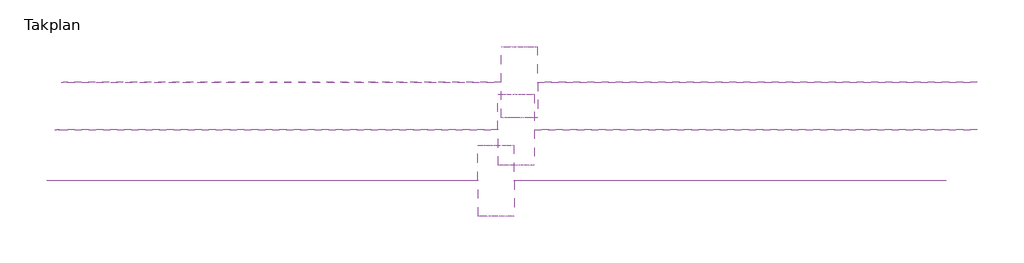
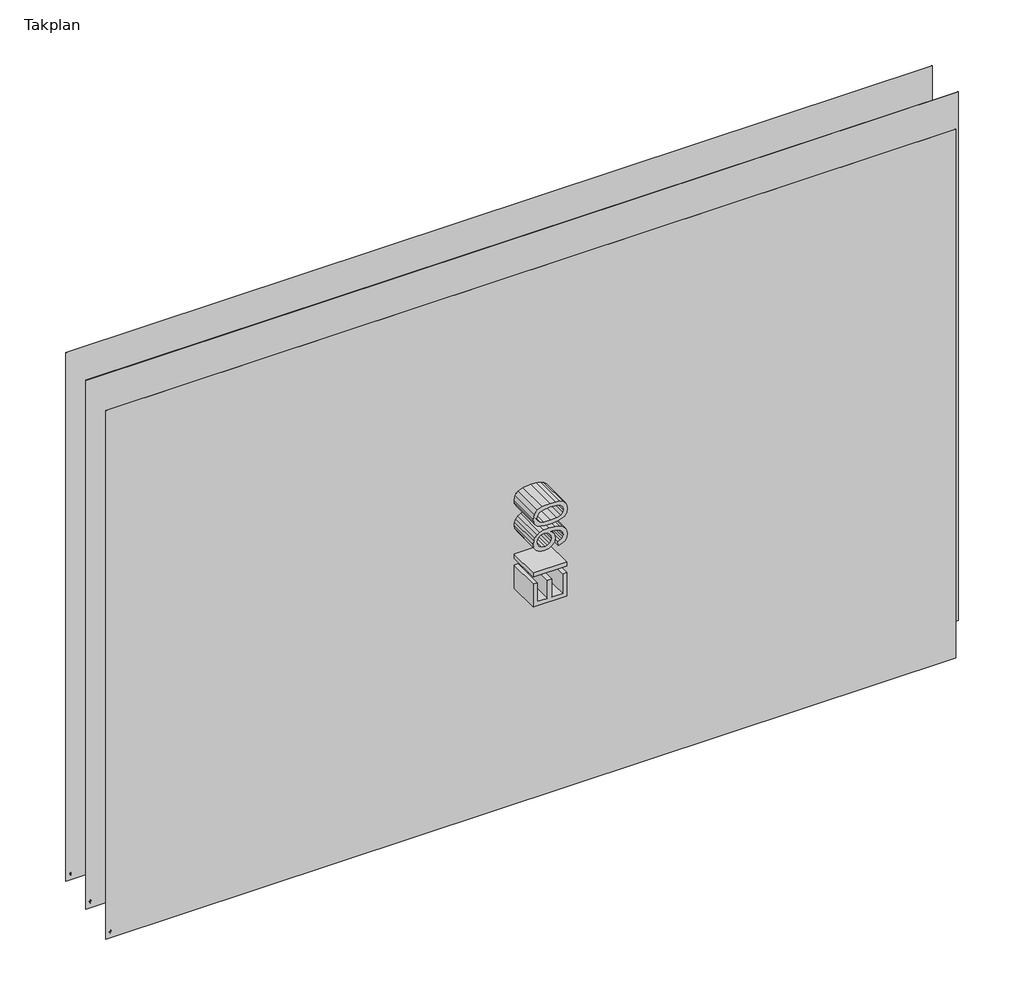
# One storey: 3 proxies.
"""IFC4 building model written with IfcOpenShell, lengths in millimetres."""

import ifcopenshell
import ifcopenshell.guid

model = None  # the IFC model being written
_history = None  # IfcOwnerHistory: only IFC2X3 demands one
_inside = {}  # id of a spatial element -> (the spatial element, [elements in it])
_under = {}  # id of a project, library or spatial element -> (it, [spatial elements below it])
_declared = {}  # id of a project -> (the project, [libraries it declares])
_typed = {}  # id of a type object -> (the type object, [elements of that type])
_made_of = {}  # id of a material, layer set ... -> (it, [elements and type objects made of it])


def new_model(schema):
    """Start an empty IFC model of exactly this schema.

    Asked for "IFC4X3", IfcOpenShell would pick the latest addendum, in which some entities
    have other attributes; the version numbers below select the first issue.
    IFC2X3 requires an IfcOwnerHistory on every rooted entity: one is made here for all.
    """
    global model, _history
    if schema == "IFC4X3":
        model = ifcopenshell.file(schema_version=(4, 3, 0, 0))
    else:
        model = ifcopenshell.file(schema=schema)
    _inside.clear()
    _under.clear()
    _declared.clear()
    _typed.clear()
    _made_of.clear()
    _history = None
    if model.schema == "IFC2X3":
        org = make("IfcOrganization", Name="unknown")
        user = make(
            "IfcPersonAndOrganization",
            ThePerson=make("IfcPerson", FamilyName="unknown"),
            TheOrganization=org,
        )
        app = make(
            "IfcApplication",
            ApplicationDeveloper=org,
            Version="unknown",
            ApplicationFullName="unknown",
            ApplicationIdentifier="unknown",
        )
        _history = make(
            "IfcOwnerHistory",
            OwningUser=user,
            OwningApplication=app,
            ChangeAction="ADDED",
            CreationDate=0,
        )
    return model


def make(cls, **values):
    """One entity of the class cls with the attributes given. An attribute that is None is left unset."""
    return model.create_entity(
        cls, **{name: value for name, value in values.items() if value is not None}
    )


def rooted(cls, **values):
    """An entity with a GlobalId (a new one), such as an element, a storey or a relation."""
    return make(cls, GlobalId=ifcopenshell.guid.new(), OwnerHistory=_history, **values)


def si_unit(unit_type, name, prefix=None):
    """IfcSIUnit, for example si_unit("LENGTHUNIT", "METRE", prefix="MILLI")."""
    return make("IfcSIUnit", UnitType=unit_type, Prefix=prefix, Name=name)


def assignment(units):
    """IfcUnitAssignment: the units of a project."""
    return None if units is None else make("IfcUnitAssignment", Units=units)


def point(xyz):
    """IfcCartesianPoint."""
    return None if xyz is None else make("IfcCartesianPoint", Coordinates=xyz)


def direction(xyz):
    """IfcDirection."""
    return None if xyz is None else make("IfcDirection", DirectionRatios=xyz)


def frame(location, z_axis=None, x_axis=None):
    """IfcAxis2Placement3D, a coordinate frame: its origin and axes. An axis left out is left unset."""
    return make(
        "IfcAxis2Placement3D",
        Location=point(location),
        Axis=direction(z_axis),
        RefDirection=direction(x_axis),
    )


def frame_2d(location, x_axis=None):
    """IfcAxis2Placement2D, a coordinate frame in the plane: its origin and x axis."""
    return make(
        "IfcAxis2Placement2D", Location=point(location), RefDirection=direction(x_axis)
    )


def origin():
    """The frame at (0, 0, 0) with its axes left unset."""
    return frame((0.0, 0.0, 0.0))


def origin_with_axes():
    """The frame at (0, 0, 0) with the z axis (0, 0, 1) and the x axis (1, 0, 0) written out."""
    return frame((0.0, 0.0, 0.0), z_axis=(0.0, 0.0, 1.0), x_axis=(1.0, 0.0, 0.0))


def place(relative_to, where):
    """IfcLocalPlacement: puts the frame where relative to a parent placement (None: the world)."""
    return make(
        "IfcLocalPlacement", PlacementRelTo=relative_to, RelativePlacement=where
    )


def context(
    kind, dimensions, precision=None, world=None, true_north=None, identifier=None
):
    """IfcGeometricRepresentationContext, for example the 3D "Model" context."""
    return make(
        "IfcGeometricRepresentationContext",
        ContextIdentifier=identifier,
        ContextType=kind,
        CoordinateSpaceDimension=dimensions,
        Precision=precision,
        WorldCoordinateSystem=world,
        TrueNorth=true_north,
    )


def project(units=None, contexts=None):
    """IfcProject with its units and contexts."""
    return rooted(
        "IfcProject",
        Name="project",
        RepresentationContexts=contexts,
        UnitsInContext=assignment(units),
    )


def spatial(cls, under=None, at=None, **own):
    """A site, building, storey or space (cls), placed at a placement, below another one or the project."""
    s = rooted(cls, ObjectPlacement=at, **own)
    if under is not None:
        _under.setdefault(under.id(), (under, []))[1].append(s)
    return s


def polyline(points):
    """IfcPolyline through the points."""
    return make("IfcPolyline", Points=[point(p) for p in points])


def circle_curve(where, radius):
    """IfcCircle in the frame where."""
    return make("IfcCircle", Position=where, Radius=radius)


def trimmed(basis, trim1, trim2, sense, master):
    """IfcTrimmedCurve: the piece of a basis curve between two trims."""
    return make(
        "IfcTrimmedCurve",
        BasisCurve=basis,
        Trim1=trim1,
        Trim2=trim2,
        SenseAgreement=sense,
        MasterRepresentation=master,
    )


def segment(curve, same_sense, transition):
    """IfcCompositeCurveSegment."""
    return make(
        "IfcCompositeCurveSegment",
        Transition=transition,
        SameSense=same_sense,
        ParentCurve=curve,
    )


def composite_curve(segments, self_intersect=None):
    """IfcCompositeCurve: segments joined end to end."""
    return make("IfcCompositeCurve", Segments=segments, SelfIntersect=self_intersect)


def outline(outer, holes=None, kind="AREA"):
    """IfcArbitraryClosedProfileDef: a profile drawn as a closed curve; with holes, ...WithVoids."""
    if holes is None:
        return make("IfcArbitraryClosedProfileDef", ProfileType=kind, OuterCurve=outer)
    return make(
        "IfcArbitraryProfileDefWithVoids",
        ProfileType=kind,
        OuterCurve=outer,
        InnerCurves=holes,
    )


def extrude(swept, where, along, depth):
    """IfcExtrudedAreaSolid: the profile swept, set in the frame where, extruded along a direction by depth."""
    return make(
        "IfcExtrudedAreaSolid",
        SweptArea=swept,
        Position=where,
        ExtrudedDirection=direction(along),
        Depth=depth,
    )


def shape(context_of_items, identifier, shape_type, items):
    """IfcShapeRepresentation: the items that make up one representation, for example the "Body"."""
    return make(
        "IfcShapeRepresentation",
        ContextOfItems=context_of_items,
        RepresentationIdentifier=identifier,
        RepresentationType=shape_type,
        Items=items,
    )


def source(mapping_origin, context_of_items, identifier, shape_type, items):
    """IfcRepresentationMap: a shape defined once, which mapped items show again and again."""
    return make(
        "IfcRepresentationMap",
        MappingOrigin=mapping_origin,
        MappedRepresentation=shape(context_of_items, identifier, shape_type, items),
    )


def transform(
    local_origin,
    x_axis=None,
    y_axis=None,
    z_axis=None,
    scale=None,
    scale2=None,
    scale3=None,
    uniform=True,
):
    """IfcCartesianTransformationOperator3D, or its non-uniform kind. x_axis, y_axis, z_axis: its Axis1, 2, 3."""
    if uniform:
        return make(
            "IfcCartesianTransformationOperator3D",
            Axis1=direction(x_axis),
            Axis2=direction(y_axis),
            LocalOrigin=point(local_origin),
            Scale=scale,
            Axis3=direction(z_axis),
        )
    return make(
        "IfcCartesianTransformationOperator3DnonUniform",
        Axis1=direction(x_axis),
        Axis2=direction(y_axis),
        LocalOrigin=point(local_origin),
        Scale=scale,
        Axis3=direction(z_axis),
        Scale2=scale2,
        Scale3=scale3,
    )


def mapped(mapping_source, mapping_target):
    """IfcMappedItem: shows the shape of a source again, moved by a transform."""
    return make(
        "IfcMappedItem", MappingSource=mapping_source, MappingTarget=mapping_target
    )


def made_of(thing, what):
    """Note that an element or type object is made of a material, layer set ...; save() writes the relation."""
    if what is not None:
        _made_of.setdefault(what.id(), (what, []))[1].append(thing)
    return thing


def element(
    cls,
    number,
    at=None,
    inside=None,
    cuts=None,
    type_object=None,
    material=None,
    context=None,
    identifier="Body",
    shape_type=None,
    held_by="IfcProductDefinitionShape",
    body=None,
    shapes=None,
    **own,
):
    """One element of the class cls, such as IfcWall. Its Tag is "e" and its number.

    at: its placement. inside: the storey or other place that contains it. cuts: it is an
    opening in that element (IfcRelVoidsElement). A single representation is given by context,
    identifier, shape_type and body (its items); several are given by shapes. held_by: the class
    of the entity that holds the representations. save() writes the other relations.
    """
    e = rooted(cls, Tag="e%d" % number, ObjectPlacement=at, **own)
    if body is not None:
        shapes = [shape(context, identifier, shape_type, body)]
    if shapes is not None:
        e.Representation = make(held_by, Representations=shapes)
    if inside is not None:
        _inside.setdefault(inside.id(), (inside, []))[1].append(e)
    if cuts is not None:
        rooted(
            "IfcRelVoidsElement", RelatingBuildingElement=cuts, RelatedOpeningElement=e
        )
    if type_object is not None:
        _typed.setdefault(type_object.id(), (type_object, []))[1].append(e)
    return made_of(e, material)


def aggregate(whole, parts):
    """IfcRelAggregates: a whole, such as a stair, and the parts it consists of."""
    return rooted("IfcRelAggregates", RelatingObject=whole, RelatedObjects=parts)


def save(model, path):
    """Write the relations noted so far, then the file.

    IfcRelAggregates (storeys below a building ...), IfcRelContainedInSpatialStructure (elements
    in a storey), IfcRelDefinesByType, IfcRelAssociatesMaterial and IfcRelDeclares: one each for
    every whole, place, type object, material and project.
    """
    for whole, parts in _under.values():
        aggregate(whole, parts)
    for where, things in _inside.values():
        rooted(
            "IfcRelContainedInSpatialStructure",
            RelatedElements=things,
            RelatingStructure=where,
        )
    for kind, things in _typed.values():
        rooted("IfcRelDefinesByType", RelatedObjects=things, RelatingType=kind)
    for what, things in _made_of.values():
        rooted("IfcRelAssociatesMaterial", RelatedObjects=things, RelatingMaterial=what)
    for by, libraries in _declared.values():
        rooted("IfcRelDeclares", RelatingContext=by, RelatedDefinitions=libraries)
    model.write(path)


def ei30_c44ad735(model_context):
    return source(origin(), model_context, "Body", "SweptSolid", [
        extrude(outline(polyline([(3872.2538389, -0.5), (0.0, -0.5), (0.0, 0.5), (3872.2538389, 0.5), (3872.2538389, -0.5)])), origin_with_axes(), (0.0, 0.0, 1.0), 2500.0),
        extrude(outline(composite_curve([segment(trimmed(circle_curve(frame_2d((28.9488523, 20.9372462)), 4.3000253), [point((27.7936078, 25.0791815))], [point((29.724042, 25.1668205))], False, "CARTESIAN"), True, "CONTINUOUS"), segment(trimmed(circle_curve(frame_2d((29.6833004, 19.2917407)), 5.875221), [point((29.724042, 25.1668205))], [point((32.6283278, 24.3755421))], False, "CARTESIAN"), True, "CONTINUOUS"), segment(trimmed(circle_curve(frame_2d((32.8576867, 20.8662932)), 3.5167361), [point((32.6283278, 24.3755421))], [point((30.6249304, 23.5833197))], True, "CARTESIAN"), True, "CONTINUOUS"), segment(trimmed(circle_curve(frame_2d((10.876956, 53.8348059)), 36.1266511), [point((30.6249304, 23.5833197))], [point((25.8949704, 20.9776277))], False, "CARTESIAN"), True, "CONTINUOUS"), segment(trimmed(circle_curve(frame_2d((21.9041848, 33.757735)), 13.3887083), [point((25.8949704, 20.9776277))], [point((22.6832699, 20.3917132))], False, "CARTESIAN"), True, "CONTINUOUS"), segment(trimmed(circle_curve(frame_2d((20.9508608, 39.8789486)), 19.5640891), [point((22.6832699, 20.3917132))], [point((20.0109811, 20.3374489))], False, "CARTESIAN"), True, "CONTINUOUS"), segment(trimmed(circle_curve(frame_2d((18.2722891, 30.1747881)), 9.9898094), [point((20.0109811, 20.3374489))], [point((25.2489423, 23.0247809))], True, "CARTESIAN"), True, "CONTINUOUS"), segment(trimmed(circle_curve(frame_2d((30.9774835, 18.5323372)), 7.2799887), [point((25.2489423, 23.0247809))], [point((27.7936078, 25.0791815))], False, "CARTESIAN"), True, "CONTINUOUS")], self_intersect=False)), frame((0.0, -0.6, 0.0), z_axis=(0.0, 1.0, 0.0), x_axis=(0.0, 0.0, 1.0)), (0.0, 0.0, 1.0), 1.2),
        extrude(outline(composite_curve([segment(trimmed(circle_curve(frame_2d((34.8553456, 17.4656787)), 4.3823741), [point((35.4675373, 21.8050824))], [point((32.7666638, 21.3182897))], True, "CARTESIAN"), True, "CONTINUOUS"), segment(trimmed(circle_curve(frame_2d((31.0348418, 25.2412811)), 4.2882478), [point((32.7666638, 21.3182897))], [point((31.0556823, 20.9530839))], False, "CARTESIAN"), True, "CONTINUOUS"), segment(trimmed(circle_curve(frame_2d((30.8661112, 26.3534755)), 5.4037178), [point((31.0556823, 20.9530839))], [point((28.4262544, 21.5319337))], False, "CARTESIAN"), True, "CONTINUOUS"), segment(trimmed(circle_curve(frame_2d((28.9867579, 26.8058524)), 5.3036197), [point((28.4262544, 21.5319337))], [point((30.6443727, 21.7679267))], True, "CARTESIAN"), True, "CONTINUOUS"), segment(trimmed(circle_curve(frame_2d((33.7648144, 18.2895153)), 4.6729544), [point((30.6443727, 21.7679267))], [point((32.5632515, 22.8053485))], False, "CARTESIAN"), True, "CONTINUOUS"), segment(trimmed(circle_curve(frame_2d((33.1708117, 19.8529583)), 3.0142556), [point((32.5632515, 22.8053485))], [point((35.4675373, 21.8050824))], False, "CARTESIAN"), True, "CONTINUOUS")], self_intersect=False)), frame((0.0, -0.6, 0.0), z_axis=(0.0, 1.0, 0.0), x_axis=(0.0, 0.0, 1.0)), (0.0, 0.0, 1.0), 1.2),
        extrude(outline(composite_curve([segment(trimmed(circle_curve(frame_2d((26.35828, 17.8501973)), 2.1465167), [point((27.6612009, 19.5560492))], [point((26.6135063, 19.9814864))], True, "CARTESIAN"), True, "CONTINUOUS"), segment(trimmed(circle_curve(frame_2d((25.771558, 13.6747037)), 6.3627341), [point((26.6135063, 19.9814864))], [point((25.1811141, 20.0099828))], True, "CARTESIAN"), True, "CONTINUOUS"), segment(trimmed(circle_curve(frame_2d((27.6708438, 15.0485986)), 5.5510437), [point((25.1811141, 20.0099828))], [point((27.8117089, 20.5978547))], False, "CARTESIAN"), True, "CONTINUOUS"), segment(trimmed(circle_curve(frame_2d((27.9681735, 17.2267436)), 3.3747401), [point((27.8117089, 20.5978547))], [point((29.507487, 20.2299728))], False, "CARTESIAN"), True, "CONTINUOUS"), segment(trimmed(circle_curve(frame_2d((31.5381431, 23.6896238)), 4.0115769), [point((29.507487, 20.2299728))], [point((32.2223971, 19.7368341))], True, "CARTESIAN"), True, "CONTINUOUS"), segment(trimmed(circle_curve(frame_2d((29.9256715, 21.6889582)), 3.0142556), [point((32.2223971, 19.7368341))], [point((29.3181113, 18.736568))], False, "CARTESIAN"), True, "CONTINUOUS"), segment(trimmed(circle_curve(frame_2d((30.5170043, 23.2454076)), 4.6655095), [point((29.3181113, 18.736568))], [point((27.6612009, 19.5560492))], False, "CARTESIAN"), True, "CONTINUOUS")], self_intersect=False)), frame((0.0, -0.6, 0.0), z_axis=(0.0, 1.0, 0.0), x_axis=(0.0, 0.0, 1.0)), (0.0, 0.0, 1.0), 1.2),
        extrude(outline(composite_curve([segment(trimmed(circle_curve(frame_2d((32.8467056, 19.4711557)), 3.5167361), [point((30.6139493, 16.7541292))], [point((32.6173467, 15.9619068))], True, "CARTESIAN"), True, "CONTINUOUS"), segment(trimmed(circle_curve(frame_2d((29.6723193, 21.0457082)), 5.875221), [point((32.6173467, 15.9619068))], [point((29.7130609, 15.1706284))], False, "CARTESIAN"), True, "CONTINUOUS"), segment(trimmed(circle_curve(frame_2d((28.9378712, 19.4002026)), 4.3000253), [point((29.7130609, 15.1706284))], [point((27.7826267, 15.2582674))], False, "CARTESIAN"), True, "CONTINUOUS"), segment(trimmed(circle_curve(frame_2d((30.9665024, 21.8051117)), 7.2799887), [point((27.7826267, 15.2582674))], [point((25.2379612, 17.312668))], False, "CARTESIAN"), True, "CONTINUOUS"), segment(trimmed(circle_curve(frame_2d((18.261308, 10.1626608)), 9.9898094), [point((25.2379612, 17.312668))], [point((20.0, 20.0))], True, "CARTESIAN"), True, "CONTINUOUS"), segment(trimmed(circle_curve(frame_2d((20.9398797, 0.4585003)), 19.5640891), [point((20.0, 20.0))], [point((22.6722888, 19.9457357))], False, "CARTESIAN"), True, "CONTINUOUS"), segment(trimmed(circle_curve(frame_2d((21.8932037, 6.5797139)), 13.3887083), [point((22.6722888, 19.9457357))], [point((25.8839893, 19.3598212))], False, "CARTESIAN"), True, "CONTINUOUS"), segment(trimmed(circle_curve(frame_2d((10.8659749, -13.497357)), 36.1266511), [point((25.8839893, 19.3598212))], [point((30.6139493, 16.7541292))], False, "CARTESIAN"), True, "CONTINUOUS")], self_intersect=False)), frame((0.0, -0.6, 0.0), z_axis=(0.0, 1.0, 0.0), x_axis=(0.0, 0.0, 1.0)), (0.0, 0.0, 1.0), 1.2),
        extrude(outline(polyline([(1022.7960798, 1861.1269195), (1022.7960798, 2011.8113847), (1131.1005392, 2011.8113847), (1131.1005392, 1992.9758265), (1041.6316379, 1992.9758265), (1041.6316379, 1948.2413759), (1126.3916496, 1948.2413759), (1126.3916496, 1929.4058178), (1041.6316379, 1929.4058178), (1041.6316379, 1879.9624776), (1133.4549839, 1879.9624776), (1133.4549839, 1861.1269195), (1022.7960798, 1861.1269195)])), frame((0.0, 0.0, 0.0), z_axis=(0.0, 1.0, 0.0), x_axis=(0.0, 0.0, 1.0)), (0.0, 0.0, 1.0), 150.0),
        extrude(outline(polyline([(1861.1269195, 150.0), (2011.8113847, 150.0), (2011.8113847, 0.0), (1861.1269195, 0.0), (1861.1269195, 150.0)])), frame((0.0, 0.0, 1164.0627659), z_axis=(0.0, 0.0, 1.0), x_axis=(1.0, 0.0, 0.0)), (0.0, 0.0, 1.0), 18.8355582),
        extrude(outline(polyline([(1272.3672253, 1901.1524805), (1291.2027835, 1903.5069253), (1295.4196308, 1891.6703221), (1301.5954498, 1883.6780858), (1310.0337431, 1879.1255461), (1321.0380133, 1877.6080329), (1333.9506713, 1879.6957632), (1343.9202734, 1885.9589541), (1350.2938289, 1895.3031568), (1352.4183475, 1906.6339223), (1350.312223, 1917.3898721), (1343.9938498, 1926.1132739), (1334.4289179, 1931.8936198), (1322.5831176, 1933.8204017), (1309.376154, 1931.7602625), (1311.4730814, 1950.5958207), (1314.4897138, 1950.3750915), (1335.8636577, 1955.7829568), (1342.9821743, 1962.643956), (1345.3550131, 1972.411223), (1343.6351648, 1980.5460136), (1338.4756198, 1987.1448969), (1330.6029451, 1991.5180941), (1320.7437077, 1992.9758265), (1310.8660761, 1991.5042986), (1302.7910663, 1987.0897146), (1296.8957573, 1979.7320747), (1293.5572282, 1969.4313789), (1274.7216701, 1971.7858236), (1280.2674912, 1988.6991983), (1290.1359257, 2001.3267478), (1303.6371949, 2009.1902255), (1320.0815201, 2011.8113847), (1342.7982333, 2006.6426427), (1358.6907355, 1992.515974), (1364.1905713, 1973.514869), (1358.966647, 1956.1508388), (1343.5156032, 1943.6796392), (1355.3062211, 1938.9155674), (1364.0434185, 1930.8037694), (1369.4512838, 1919.7857036), (1371.2539056, 1906.3028285), (1367.6486621, 1887.9455169), (1356.8329314, 1872.6048377), (1340.5081679, 1862.2305655), (1320.3758257, 1858.7724747), (1302.1656669, 1861.7247277), (1287.3400225, 1870.5814867), (1277.0301296, 1884.1287412), (1272.3672253, 1901.1524805)])), frame((0.0, 0.0, 0.0), z_axis=(0.0, 1.0, 0.0), x_axis=(0.0, 0.0, 1.0)), (0.0, 0.0, 1.0), 150.0),
        extrude(outline(polyline([(1387.735019, 1935.2551415), (1389.119175, 1959.3744048), (1393.271643, 1978.6100346), (1400.1510363, 1993.2563366), (1409.7159682, 2003.6076162), (1422.0354165, 2009.7604426), (1437.1783591, 2011.8113847), (1459.1777025, 2006.9553424), (1474.3712289, 1992.9574324), (1483.2003967, 1970.6637835), (1486.6216993, 1935.2551415), (1485.2513389, 1911.2738339), (1481.1402576, 1892.0841894), (1474.302251, 1877.4240919), (1464.7511147, 1867.0314255), (1452.4040752, 1860.8372124), (1437.1783591, 1858.7724747), (1417.607037, 1862.3593242), (1402.7446044, 1873.1198725), (1391.4874153, 1898.6048977), (1387.735019, 1935.2551415)]), holes=[polyline([(1406.5705771, 1935.2919297), (1408.7778691, 1905.6636335), (1415.399745, 1888.515734), (1425.2589825, 1880.3349581), (1437.1783591, 1877.6080329), (1449.0977358, 1880.3441552), (1458.9569733, 1888.5525222), (1465.5788492, 1905.7096188), (1467.7861411, 1935.2919297), (1465.6524256, 1964.2534398), (1459.2512789, 1981.5346965), (1449.4104355, 1990.115544), (1436.9576299, 1992.9758265), (1425.167012, 1990.4558349), (1415.6940506, 1982.8958599), (1408.8514455, 1964.5385483), (1406.5705771, 1935.2919297)])]), frame((0.0, 0.0, 0.0), z_axis=(0.0, 1.0, 0.0), x_axis=(0.0, 0.0, 1.0)), (0.0, 0.0, 1.0), 150.0),
        extrude(outline(polyline([(1022.7960798, 2011.1269195), (1133.4549839, 2011.1269195), (1133.4549839, 1992.2913613), (1041.6316379, 1992.2913613), (1041.6316379, 1942.8480212), (1126.3916496, 1942.8480212), (1126.3916496, 1924.012463), (1041.6316379, 1924.012463), (1041.6316379, 1879.2780124), (1131.1005392, 1879.2780124), (1131.1005392, 1860.4424542), (1022.7960798, 1860.4424542), (1022.7960798, 2011.1269195)])), frame((0.0, -150.0, 0.0), z_axis=(0.0, 1.0, 0.0), x_axis=(0.0, 0.0, 1.0)), (0.0, 0.0, 1.0), 150.0),
        extrude(outline(polyline([(2011.1269195, -150.0), (1860.4424542, -150.0), (1860.4424542, 0.0), (2011.1269195, 0.0), (2011.1269195, -150.0)])), frame((0.0, 0.0, 1164.0627659), z_axis=(0.0, 0.0, 1.0), x_axis=(1.0, 0.0, 0.0)), (0.0, 0.0, 1.0), 18.8355582),
        extrude(outline(polyline([(1272.3672253, 1971.1013584), (1277.0301296, 1988.1250977), (1287.3400225, 2001.6723522), (1302.1656669, 2010.5291112), (1320.3758257, 2013.4813642), (1340.5081679, 2010.0232735), (1356.8329314, 1999.6490012), (1367.6486621, 1984.308322), (1371.2539056, 1965.9510105), (1369.4512838, 1952.4681353), (1364.0434185, 1941.4500696), (1355.3062211, 1933.3382716), (1343.5156032, 1928.5741998), (1358.966647, 1916.1030001), (1364.1905713, 1898.7389699), (1358.6907355, 1879.7378649), (1342.7982333, 1865.6111963), (1320.0815201, 1860.4424542), (1303.6371949, 1863.0636135), (1290.1359257, 1870.9270911), (1280.2674912, 1883.5546406), (1274.7216701, 1900.4680153), (1293.5572282, 1902.8224601), (1296.8957573, 1892.5217642), (1302.7910663, 1885.1641243), (1310.8660761, 1880.7495404), (1320.7437077, 1879.2780124), (1330.6029451, 1880.7357448), (1338.4756198, 1885.108942), (1343.6351648, 1891.7078253), (1345.3550131, 1899.8426159), (1342.9821743, 1909.6098829), (1335.8636577, 1916.4708821), (1314.4897138, 1921.8787474), (1311.4730814, 1921.6580182), (1309.376154, 1940.4935764), (1322.5831176, 1938.4334372), (1334.4289179, 1940.3602192), (1343.9938498, 1946.140565), (1350.312223, 1954.8639668), (1352.4183475, 1965.6199167), (1350.2938289, 1976.9506821), (1343.9202734, 1986.2948848), (1333.9506713, 1992.5580758), (1321.0380133, 1994.6458061), (1310.0337431, 1993.1282929), (1301.5954498, 1988.5757532), (1295.4196308, 1980.5835168), (1291.2027835, 1968.7469136), (1272.3672253, 1971.1013584)])), frame((0.0, -150.0, 0.0), z_axis=(0.0, 1.0, 0.0), x_axis=(0.0, 0.0, 1.0)), (0.0, 0.0, 1.0), 150.0),
        extrude(outline(polyline([(1387.735019, 1936.9986974), (1391.4874153, 1973.6489412), (1402.7446044, 1999.1339664), (1417.607037, 2009.8945148), (1437.1783591, 2013.4813642), (1452.4040752, 2011.4166265), (1464.7511147, 2005.2224134), (1474.302251, 1994.8297471), (1481.1402576, 1980.1696496), (1485.2513389, 1960.980005), (1486.6216993, 1936.9986974), (1483.2003967, 1901.5900554), (1474.3712289, 1879.2964065), (1459.1777025, 1865.2984966), (1437.1783591, 1860.4424542), (1422.0354165, 1862.4933964), (1409.7159682, 1868.6462227), (1400.1510363, 1878.9975024), (1393.271643, 1893.6438043), (1389.119175, 1912.8794341), (1387.735019, 1936.9986974)]), holes=[polyline([(1406.5705771, 1936.9619092), (1408.8514455, 1907.7152906), (1415.6940506, 1889.3579791), (1425.167012, 1881.7980041), (1436.9576299, 1879.2780124), (1449.4104355, 1882.1382949), (1459.2512789, 1890.7191424), (1465.6524256, 1908.0003992), (1467.7861411, 1936.9619092), (1465.5788492, 1966.5442202), (1458.9569733, 1983.7013167), (1449.0977358, 1991.9096837), (1437.1783591, 1994.6458061), (1425.2589825, 1991.9188808), (1415.399745, 1983.7381049), (1408.7778691, 1966.5902054), (1406.5705771, 1936.9619092)])]), frame((0.0, -150.0, 0.0), z_axis=(0.0, 1.0, 0.0), x_axis=(0.0, 0.0, 1.0)), (0.0, 0.0, 1.0), 150.0),
    ])


def ei60_135c5abb(model_context):
    return source(origin(), model_context, "Body", "SweptSolid", [
        extrude(outline(polyline([(3900.0, -0.5), (0.0, -0.5), (0.0, 0.5), (3900.0, 0.5), (3900.0, -0.5)])), origin_with_axes(), (0.0, 0.0, 1.0), 2500.0),
        extrude(outline(composite_curve([segment(trimmed(circle_curve(frame_2d((28.9488523, 20.9372462)), 4.3000253), [point((27.7936078, 25.0791815))], [point((29.724042, 25.1668205))], False, "CARTESIAN"), True, "CONTINUOUS"), segment(trimmed(circle_curve(frame_2d((29.6833004, 19.2917407)), 5.875221), [point((29.724042, 25.1668205))], [point((32.6283278, 24.3755421))], False, "CARTESIAN"), True, "CONTINUOUS"), segment(trimmed(circle_curve(frame_2d((32.8576867, 20.8662932)), 3.5167361), [point((32.6283278, 24.3755421))], [point((30.6249304, 23.5833197))], True, "CARTESIAN"), True, "CONTINUOUS"), segment(trimmed(circle_curve(frame_2d((10.876956, 53.8348059)), 36.1266511), [point((30.6249304, 23.5833197))], [point((25.8949704, 20.9776277))], False, "CARTESIAN"), True, "CONTINUOUS"), segment(trimmed(circle_curve(frame_2d((21.9041848, 33.757735)), 13.3887083), [point((25.8949704, 20.9776277))], [point((22.6832699, 20.3917132))], False, "CARTESIAN"), True, "CONTINUOUS"), segment(trimmed(circle_curve(frame_2d((20.9508608, 39.8789486)), 19.5640891), [point((22.6832699, 20.3917132))], [point((20.0109811, 20.3374489))], False, "CARTESIAN"), True, "CONTINUOUS"), segment(trimmed(circle_curve(frame_2d((18.2722891, 30.1747881)), 9.9898094), [point((20.0109811, 20.3374489))], [point((25.2489423, 23.0247809))], True, "CARTESIAN"), True, "CONTINUOUS"), segment(trimmed(circle_curve(frame_2d((30.9774835, 18.5323372)), 7.2799887), [point((25.2489423, 23.0247809))], [point((27.7936078, 25.0791815))], False, "CARTESIAN"), True, "CONTINUOUS")], self_intersect=False)), frame((0.0, -0.6, 0.0), z_axis=(0.0, 1.0, 0.0), x_axis=(0.0, 0.0, 1.0)), (0.0, 0.0, 1.0), 1.2),
        extrude(outline(composite_curve([segment(trimmed(circle_curve(frame_2d((34.8553456, 17.4656787)), 4.3823741), [point((35.4675373, 21.8050824))], [point((32.7666638, 21.3182897))], True, "CARTESIAN"), True, "CONTINUOUS"), segment(trimmed(circle_curve(frame_2d((31.0348418, 25.2412811)), 4.2882478), [point((32.7666638, 21.3182897))], [point((31.0556823, 20.9530839))], False, "CARTESIAN"), True, "CONTINUOUS"), segment(trimmed(circle_curve(frame_2d((30.8661112, 26.3534755)), 5.4037178), [point((31.0556823, 20.9530839))], [point((28.4262544, 21.5319337))], False, "CARTESIAN"), True, "CONTINUOUS"), segment(trimmed(circle_curve(frame_2d((28.9867579, 26.8058524)), 5.3036197), [point((28.4262544, 21.5319337))], [point((30.6443727, 21.7679267))], True, "CARTESIAN"), True, "CONTINUOUS"), segment(trimmed(circle_curve(frame_2d((33.7648144, 18.2895153)), 4.6729544), [point((30.6443727, 21.7679267))], [point((32.5632515, 22.8053485))], False, "CARTESIAN"), True, "CONTINUOUS"), segment(trimmed(circle_curve(frame_2d((33.1708117, 19.8529583)), 3.0142556), [point((32.5632515, 22.8053485))], [point((35.4675373, 21.8050824))], False, "CARTESIAN"), True, "CONTINUOUS")], self_intersect=False)), frame((0.0, -0.6, 0.0), z_axis=(0.0, 1.0, 0.0), x_axis=(0.0, 0.0, 1.0)), (0.0, 0.0, 1.0), 1.2),
        extrude(outline(composite_curve([segment(trimmed(circle_curve(frame_2d((26.35828, 17.8501973)), 2.1465167), [point((27.6612009, 19.5560492))], [point((26.6135063, 19.9814864))], True, "CARTESIAN"), True, "CONTINUOUS"), segment(trimmed(circle_curve(frame_2d((25.771558, 13.6747037)), 6.3627341), [point((26.6135063, 19.9814864))], [point((25.1811141, 20.0099828))], True, "CARTESIAN"), True, "CONTINUOUS"), segment(trimmed(circle_curve(frame_2d((27.6708438, 15.0485986)), 5.5510437), [point((25.1811141, 20.0099828))], [point((27.8117089, 20.5978547))], False, "CARTESIAN"), True, "CONTINUOUS"), segment(trimmed(circle_curve(frame_2d((27.9681735, 17.2267436)), 3.3747401), [point((27.8117089, 20.5978547))], [point((29.507487, 20.2299728))], False, "CARTESIAN"), True, "CONTINUOUS"), segment(trimmed(circle_curve(frame_2d((31.5381431, 23.6896238)), 4.0115769), [point((29.507487, 20.2299728))], [point((32.2223971, 19.7368341))], True, "CARTESIAN"), True, "CONTINUOUS"), segment(trimmed(circle_curve(frame_2d((29.9256715, 21.6889582)), 3.0142556), [point((32.2223971, 19.7368341))], [point((29.3181113, 18.736568))], False, "CARTESIAN"), True, "CONTINUOUS"), segment(trimmed(circle_curve(frame_2d((30.5170043, 23.2454076)), 4.6655095), [point((29.3181113, 18.736568))], [point((27.6612009, 19.5560492))], False, "CARTESIAN"), True, "CONTINUOUS")], self_intersect=False)), frame((0.0, -0.6, 0.0), z_axis=(0.0, 1.0, 0.0), x_axis=(0.0, 0.0, 1.0)), (0.0, 0.0, 1.0), 1.2),
        extrude(outline(composite_curve([segment(trimmed(circle_curve(frame_2d((32.8467056, 19.4711557)), 3.5167361), [point((30.6139493, 16.7541292))], [point((32.6173467, 15.9619068))], True, "CARTESIAN"), True, "CONTINUOUS"), segment(trimmed(circle_curve(frame_2d((29.6723193, 21.0457082)), 5.875221), [point((32.6173467, 15.9619068))], [point((29.7130609, 15.1706284))], False, "CARTESIAN"), True, "CONTINUOUS"), segment(trimmed(circle_curve(frame_2d((28.9378712, 19.4002026)), 4.3000253), [point((29.7130609, 15.1706284))], [point((27.7826267, 15.2582674))], False, "CARTESIAN"), True, "CONTINUOUS"), segment(trimmed(circle_curve(frame_2d((30.9665024, 21.8051117)), 7.2799887), [point((27.7826267, 15.2582674))], [point((25.2379612, 17.312668))], False, "CARTESIAN"), True, "CONTINUOUS"), segment(trimmed(circle_curve(frame_2d((18.261308, 10.1626608)), 9.9898094), [point((25.2379612, 17.312668))], [point((20.0, 20.0))], True, "CARTESIAN"), True, "CONTINUOUS"), segment(trimmed(circle_curve(frame_2d((20.9398797, 0.4585003)), 19.5640891), [point((20.0, 20.0))], [point((22.6722888, 19.9457357))], False, "CARTESIAN"), True, "CONTINUOUS"), segment(trimmed(circle_curve(frame_2d((21.8932037, 6.5797139)), 13.3887083), [point((22.6722888, 19.9457357))], [point((25.8839893, 19.3598212))], False, "CARTESIAN"), True, "CONTINUOUS"), segment(trimmed(circle_curve(frame_2d((10.8659749, -13.497357)), 36.1266511), [point((25.8839893, 19.3598212))], [point((30.6139493, 16.7541292))], False, "CARTESIAN"), True, "CONTINUOUS")], self_intersect=False)), frame((0.0, -0.6, 0.0), z_axis=(0.0, 1.0, 0.0), x_axis=(0.0, 0.0, 1.0)), (0.0, 0.0, 1.0), 1.2),
        extrude(outline(polyline([(1022.7960798, 1875.0), (1022.7960798, 2025.6844652), (1131.1005392, 2025.6844652), (1131.1005392, 2006.8489071), (1041.6316379, 2006.8489071), (1041.6316379, 1962.1144565), (1126.3916496, 1962.1144565), (1126.3916496, 1943.2788983), (1041.6316379, 1943.2788983), (1041.6316379, 1893.8355582), (1133.4549839, 1893.8355582), (1133.4549839, 1875.0), (1022.7960798, 1875.0)])), frame((0.0, 0.0, 0.0), z_axis=(0.0, 1.0, 0.0), x_axis=(0.0, 0.0, 1.0)), (0.0, 0.0, 1.0), 150.0),
        extrude(outline(polyline([(1875.0, 150.0), (2025.6844652, 150.0), (2025.6844652, 0.0), (1875.0, 0.0), (1875.0, 150.0)])), frame((0.0, 0.0, 1164.0627659), z_axis=(0.0, 0.0, 1.0), x_axis=(1.0, 0.0, 0.0)), (0.0, 0.0, 1.0), 18.8355582),
        extrude(outline(polyline([(1368.8994608, 1985.6589041), (1350.0639027, 1983.3044594), (1342.926992, 1999.0130206), (1334.3829326, 2004.8899354), (1324.0546456, 2006.8489071), (1307.0584975, 2002.2871703), (1294.2010217, 1985.1622635), (1290.296874, 1971.1321639), (1288.8483387, 1951.5930314), (1305.4582108, 1966.6210109), (1326.0412084, 1971.5322355), (1343.4420268, 1968.1753123), (1358.046942, 1958.1045427), (1367.9521647, 1942.7178783), (1371.2539056, 1923.4132706), (1369.6996042, 1909.9257969), (1365.0366999, 1897.4224076), (1357.6514688, 1886.8182091), (1347.9301871, 1879.0283078), (1336.3143131, 1874.2412434), (1323.2453052, 1872.6455552), (1301.8759598, 1876.8761982), (1284.856819, 1889.568127), (1273.7237902, 1911.9721405), (1270.0127805, 1945.3390375), (1274.1330589, 1982.8538039), (1286.4938939, 2008.504376), (1303.3704805, 2021.3894429), (1325.231868, 2025.6844652), (1341.7589666, 2023.0265178), (1354.9935214, 2015.0526756), (1364.2641477, 2002.3883379), (1368.8994608, 1985.6589041)]), holes=[polyline([(1288.8483387, 1923.7075762), (1293.2077403, 1907.3920097), (1304.7960232, 1895.5462094), (1321.7737773, 1891.4811134), (1334.2035902, 1893.5872378), (1343.9754557, 1899.9056111), (1350.3076245, 1909.8384249), (1352.4183475, 1922.7878712), (1350.3352157, 1935.2176841), (1344.0858203, 1944.695244), (1334.1484079, 1950.696319), (1321.0012251, 1952.6966774), (1308.5898063, 1950.696319), (1298.2109355, 1944.695244), (1291.1889879, 1935.4476103), (1288.8483387, 1923.7075762)])]), frame((0.0, 0.0, 0.0), z_axis=(0.0, 1.0, 0.0), x_axis=(0.0, 0.0, 1.0)), (0.0, 0.0, 1.0), 150.0),
        extrude(outline(polyline([(1387.735019, 1949.128222), (1389.119175, 1973.2474853), (1393.271643, 1992.4831152), (1400.1510363, 2007.1294171), (1409.7159682, 2017.4806967), (1422.0354165, 2023.6335231), (1437.1783591, 2025.6844652), (1459.1777025, 2020.8284229), (1474.3712289, 2006.830513), (1483.2003967, 1984.5368641), (1486.6216993, 1949.128222), (1485.2513389, 1925.1469145), (1481.1402576, 1905.9572699), (1474.302251, 1891.2971724), (1464.7511147, 1880.904506), (1452.4040752, 1874.7102929), (1437.1783591, 1872.6455552), (1417.607037, 1876.2324047), (1402.7446044, 1886.992953), (1391.4874153, 1912.4779783), (1387.735019, 1949.128222)]), holes=[polyline([(1406.5705771, 1949.1650102), (1408.7778691, 1919.536714), (1415.399745, 1902.3888145), (1425.2589825, 1894.2080387), (1437.1783591, 1891.4811134), (1449.0977358, 1894.2172357), (1458.9569733, 1902.4256027), (1465.5788492, 1919.5826993), (1467.7861411, 1949.1650102), (1465.6524256, 1978.1265203), (1459.2512789, 1995.407777), (1449.4104355, 2003.9886246), (1436.9576299, 2006.8489071), (1425.167012, 2004.3289154), (1415.6940506, 1996.7689404), (1408.8514455, 1978.4116288), (1406.5705771, 1949.1650102)])]), frame((0.0, 0.0, 0.0), z_axis=(0.0, 1.0, 0.0), x_axis=(0.0, 0.0, 1.0)), (0.0, 0.0, 1.0), 150.0),
        extrude(outline(polyline([(1022.7960798, 2025.0), (1133.4549839, 2025.0), (1133.4549839, 2006.1644418), (1041.6316379, 2006.1644418), (1041.6316379, 1956.7211017), (1126.3916496, 1956.7211017), (1126.3916496, 1937.8855435), (1041.6316379, 1937.8855435), (1041.6316379, 1893.1510929), (1131.1005392, 1893.1510929), (1131.1005392, 1874.3155348), (1022.7960798, 1874.3155348), (1022.7960798, 2025.0)])), frame((0.0, -150.0, 0.0), z_axis=(0.0, 1.0, 0.0), x_axis=(0.0, 0.0, 1.0)), (0.0, 0.0, 1.0), 150.0),
        extrude(outline(polyline([(2025.0, -150.0), (1874.3155348, -150.0), (1874.3155348, 0.0), (2025.0, 0.0), (2025.0, -150.0)])), frame((0.0, 0.0, 1164.0627659), z_axis=(0.0, 0.0, 1.0), x_axis=(1.0, 0.0, 0.0)), (0.0, 0.0, 1.0), 18.8355582),
        extrude(outline(polyline([(1368.8994608, 1914.3410959), (1364.2641477, 1897.6116621), (1354.9935214, 1884.9473244), (1341.7589666, 1876.9734822), (1325.231868, 1874.3155348), (1303.3704805, 1878.6105571), (1286.4938939, 1891.495624), (1274.1330589, 1917.1461961), (1270.0127805, 1954.6609625), (1273.7237902, 1988.0278595), (1284.856819, 2010.431873), (1301.8759598, 2023.1238018), (1323.2453052, 2027.3544448), (1336.3143131, 2025.7587566), (1347.9301871, 2020.9716922), (1357.6514688, 2013.1817909), (1365.0366999, 2002.5775924), (1369.6996042, 1990.0742031), (1371.2539056, 1976.5867294), (1367.9521647, 1957.2821217), (1358.046942, 1941.8954573), (1343.4420268, 1931.8246877), (1326.0412084, 1928.4677645), (1305.4582108, 1933.3789891), (1288.8483387, 1948.4069686), (1290.296874, 1928.8678361), (1294.2010217, 1914.8377365), (1307.0584975, 1897.7128297), (1324.0546456, 1893.1510929), (1334.3829326, 1895.1100646), (1342.926992, 1900.9869794), (1350.0639027, 1916.6955406), (1368.8994608, 1914.3410959)]), holes=[polyline([(1288.8483387, 1976.2924238), (1291.1889879, 1964.5523897), (1298.2109355, 1955.304756), (1308.5898063, 1949.303681), (1321.0012251, 1947.3033226), (1334.1484079, 1949.303681), (1344.0858203, 1955.304756), (1350.3352157, 1964.7823159), (1352.4183475, 1977.2121288), (1350.3076245, 1990.1615751), (1343.9754557, 2000.0943889), (1334.2035902, 2006.4127622), (1321.7737773, 2008.5188866), (1304.7960232, 2004.4537906), (1293.2077403, 1992.6079903), (1288.8483387, 1976.2924238)])]), frame((0.0, -150.0, 0.0), z_axis=(0.0, 1.0, 0.0), x_axis=(0.0, 0.0, 1.0)), (0.0, 0.0, 1.0), 150.0),
        extrude(outline(polyline([(1387.735019, 1950.871778), (1391.4874153, 1987.5220217), (1402.7446044, 2013.007047), (1417.607037, 2023.7675953), (1437.1783591, 2027.3544448), (1452.4040752, 2025.2897071), (1464.7511147, 2019.095494), (1474.302251, 2008.7028276), (1481.1402576, 1994.0427301), (1485.2513389, 1974.8530855), (1486.6216993, 1950.871778), (1483.2003967, 1915.4631359), (1474.3712289, 1893.169487), (1459.1777025, 1879.1715771), (1437.1783591, 1874.3155348), (1422.0354165, 1876.3664769), (1409.7159682, 1882.5193033), (1400.1510363, 1892.8705829), (1393.271643, 1907.5168848), (1389.119175, 1926.7525147), (1387.735019, 1950.871778)]), holes=[polyline([(1406.5705771, 1950.8349898), (1408.8514455, 1921.5883712), (1415.6940506, 1903.2310596), (1425.167012, 1895.6710846), (1436.9576299, 1893.1510929), (1449.4104355, 1896.0113754), (1459.2512789, 1904.592223), (1465.6524256, 1921.8734797), (1467.7861411, 1950.8349898), (1465.5788492, 1980.4173007), (1458.9569733, 1997.5743973), (1449.0977358, 2005.7827643), (1437.1783591, 2008.5188866), (1425.2589825, 2005.7919613), (1415.399745, 1997.6111855), (1408.7778691, 1980.463286), (1406.5705771, 1950.8349898)])]), frame((0.0, -150.0, 0.0), z_axis=(0.0, 1.0, 0.0), x_axis=(0.0, 0.0, 1.0)), (0.0, 0.0, 1.0), 150.0),
    ])


def ei90_eace62c9(model_context):
    return source(origin(), model_context, "Body", "SweptSolid", [
        extrude(outline(polyline([(3800.0, -0.5), (0.0, -0.5), (0.0, 0.5), (3800.0, 0.5), (3800.0, -0.5)])), origin_with_axes(), (0.0, 0.0, 1.0), 2500.0),
        extrude(outline(composite_curve([segment(trimmed(circle_curve(frame_2d((28.9488523, 20.9372462)), 4.3000253), [point((27.7936078, 25.0791815))], [point((29.724042, 25.1668205))], False, "CARTESIAN"), True, "CONTINUOUS"), segment(trimmed(circle_curve(frame_2d((29.6833004, 19.2917407)), 5.875221), [point((29.724042, 25.1668205))], [point((32.6283278, 24.3755421))], False, "CARTESIAN"), True, "CONTINUOUS"), segment(trimmed(circle_curve(frame_2d((32.8576867, 20.8662932)), 3.5167361), [point((32.6283278, 24.3755421))], [point((30.6249304, 23.5833197))], True, "CARTESIAN"), True, "CONTINUOUS"), segment(trimmed(circle_curve(frame_2d((10.876956, 53.8348059)), 36.1266511), [point((30.6249304, 23.5833197))], [point((25.8949704, 20.9776277))], False, "CARTESIAN"), True, "CONTINUOUS"), segment(trimmed(circle_curve(frame_2d((21.9041848, 33.757735)), 13.3887083), [point((25.8949704, 20.9776277))], [point((22.6832699, 20.3917132))], False, "CARTESIAN"), True, "CONTINUOUS"), segment(trimmed(circle_curve(frame_2d((20.9508608, 39.8789486)), 19.5640891), [point((22.6832699, 20.3917132))], [point((20.0109811, 20.3374489))], False, "CARTESIAN"), True, "CONTINUOUS"), segment(trimmed(circle_curve(frame_2d((18.2722891, 30.1747881)), 9.9898094), [point((20.0109811, 20.3374489))], [point((25.2489423, 23.0247809))], True, "CARTESIAN"), True, "CONTINUOUS"), segment(trimmed(circle_curve(frame_2d((30.9774835, 18.5323372)), 7.2799887), [point((25.2489423, 23.0247809))], [point((27.7936078, 25.0791815))], False, "CARTESIAN"), True, "CONTINUOUS")], self_intersect=False)), frame((0.0, -0.6, 0.0), z_axis=(0.0, 1.0, 0.0), x_axis=(0.0, 0.0, 1.0)), (0.0, 0.0, 1.0), 1.2),
        extrude(outline(composite_curve([segment(trimmed(circle_curve(frame_2d((34.8553456, 17.4656787)), 4.3823741), [point((35.4675373, 21.8050824))], [point((32.7666638, 21.3182897))], True, "CARTESIAN"), True, "CONTINUOUS"), segment(trimmed(circle_curve(frame_2d((31.0348418, 25.2412811)), 4.2882478), [point((32.7666638, 21.3182897))], [point((31.0556823, 20.9530839))], False, "CARTESIAN"), True, "CONTINUOUS"), segment(trimmed(circle_curve(frame_2d((30.8661112, 26.3534755)), 5.4037178), [point((31.0556823, 20.9530839))], [point((28.4262544, 21.5319337))], False, "CARTESIAN"), True, "CONTINUOUS"), segment(trimmed(circle_curve(frame_2d((28.9867579, 26.8058524)), 5.3036197), [point((28.4262544, 21.5319337))], [point((30.6443727, 21.7679267))], True, "CARTESIAN"), True, "CONTINUOUS"), segment(trimmed(circle_curve(frame_2d((33.7648144, 18.2895153)), 4.6729544), [point((30.6443727, 21.7679267))], [point((32.5632515, 22.8053485))], False, "CARTESIAN"), True, "CONTINUOUS"), segment(trimmed(circle_curve(frame_2d((33.1708117, 19.8529583)), 3.0142556), [point((32.5632515, 22.8053485))], [point((35.4675373, 21.8050824))], False, "CARTESIAN"), True, "CONTINUOUS")], self_intersect=False)), frame((0.0, -0.6, 0.0), z_axis=(0.0, 1.0, 0.0), x_axis=(0.0, 0.0, 1.0)), (0.0, 0.0, 1.0), 1.2),
        extrude(outline(composite_curve([segment(trimmed(circle_curve(frame_2d((26.35828, 17.8501973)), 2.1465167), [point((27.6612009, 19.5560492))], [point((26.6135063, 19.9814864))], True, "CARTESIAN"), True, "CONTINUOUS"), segment(trimmed(circle_curve(frame_2d((25.771558, 13.6747037)), 6.3627341), [point((26.6135063, 19.9814864))], [point((25.1811141, 20.0099828))], True, "CARTESIAN"), True, "CONTINUOUS"), segment(trimmed(circle_curve(frame_2d((27.6708438, 15.0485986)), 5.5510437), [point((25.1811141, 20.0099828))], [point((27.8117089, 20.5978547))], False, "CARTESIAN"), True, "CONTINUOUS"), segment(trimmed(circle_curve(frame_2d((27.9681735, 17.2267436)), 3.3747401), [point((27.8117089, 20.5978547))], [point((29.507487, 20.2299728))], False, "CARTESIAN"), True, "CONTINUOUS"), segment(trimmed(circle_curve(frame_2d((31.5381431, 23.6896238)), 4.0115769), [point((29.507487, 20.2299728))], [point((32.2223971, 19.7368341))], True, "CARTESIAN"), True, "CONTINUOUS"), segment(trimmed(circle_curve(frame_2d((29.9256715, 21.6889582)), 3.0142556), [point((32.2223971, 19.7368341))], [point((29.3181113, 18.736568))], False, "CARTESIAN"), True, "CONTINUOUS"), segment(trimmed(circle_curve(frame_2d((30.5170043, 23.2454076)), 4.6655095), [point((29.3181113, 18.736568))], [point((27.6612009, 19.5560492))], False, "CARTESIAN"), True, "CONTINUOUS")], self_intersect=False)), frame((0.0, -0.6, 0.0), z_axis=(0.0, 1.0, 0.0), x_axis=(0.0, 0.0, 1.0)), (0.0, 0.0, 1.0), 1.2),
        extrude(outline(composite_curve([segment(trimmed(circle_curve(frame_2d((32.8467056, 19.4711557)), 3.5167361), [point((30.6139493, 16.7541292))], [point((32.6173467, 15.9619068))], True, "CARTESIAN"), True, "CONTINUOUS"), segment(trimmed(circle_curve(frame_2d((29.6723193, 21.0457082)), 5.875221), [point((32.6173467, 15.9619068))], [point((29.7130609, 15.1706284))], False, "CARTESIAN"), True, "CONTINUOUS"), segment(trimmed(circle_curve(frame_2d((28.9378712, 19.4002026)), 4.3000253), [point((29.7130609, 15.1706284))], [point((27.7826267, 15.2582674))], False, "CARTESIAN"), True, "CONTINUOUS"), segment(trimmed(circle_curve(frame_2d((30.9665024, 21.8051117)), 7.2799887), [point((27.7826267, 15.2582674))], [point((25.2379612, 17.312668))], False, "CARTESIAN"), True, "CONTINUOUS"), segment(trimmed(circle_curve(frame_2d((18.261308, 10.1626608)), 9.9898094), [point((25.2379612, 17.312668))], [point((20.0, 20.0))], True, "CARTESIAN"), True, "CONTINUOUS"), segment(trimmed(circle_curve(frame_2d((20.9398797, 0.4585003)), 19.5640891), [point((20.0, 20.0))], [point((22.6722888, 19.9457357))], False, "CARTESIAN"), True, "CONTINUOUS"), segment(trimmed(circle_curve(frame_2d((21.8932037, 6.5797139)), 13.3887083), [point((22.6722888, 19.9457357))], [point((25.8839893, 19.3598212))], False, "CARTESIAN"), True, "CONTINUOUS"), segment(trimmed(circle_curve(frame_2d((10.8659749, -13.497357)), 36.1266511), [point((25.8839893, 19.3598212))], [point((30.6139493, 16.7541292))], False, "CARTESIAN"), True, "CONTINUOUS")], self_intersect=False)), frame((0.0, -0.6, 0.0), z_axis=(0.0, 1.0, 0.0), x_axis=(0.0, 0.0, 1.0)), (0.0, 0.0, 1.0), 1.2),
        extrude(outline(polyline([(1022.7960798, 1825.0), (1022.7960798, 1975.6844652), (1131.1005392, 1975.6844652), (1131.1005392, 1956.8489071), (1041.6316379, 1956.8489071), (1041.6316379, 1912.1144565), (1126.3916496, 1912.1144565), (1126.3916496, 1893.2788983), (1041.6316379, 1893.2788983), (1041.6316379, 1843.8355582), (1133.4549839, 1843.8355582), (1133.4549839, 1825.0), (1022.7960798, 1825.0)])), frame((0.0, 0.0, 0.0), z_axis=(0.0, 1.0, 0.0), x_axis=(0.0, 0.0, 1.0)), (0.0, 0.0, 1.0), 150.0),
        extrude(outline(polyline([(1825.0, 150.0), (1975.6844652, 150.0), (1975.6844652, 0.0), (1825.0, 0.0), (1825.0, 150.0)])), frame((0.0, 0.0, 1164.0627659), z_axis=(0.0, 0.0, 1.0), x_axis=(1.0, 0.0, 0.0)), (0.0, 0.0, 1.0), 18.8355582),
        extrude(outline(polyline([(1274.7216701, 1862.6711163), (1293.5572282, 1865.0255611), (1296.7761957, 1854.3339906), (1302.0185141, 1847.0545256), (1309.1554248, 1842.8744664), (1318.0581691, 1841.4811134), (1333.3068778, 1845.0679628), (1343.6443619, 1854.6512888), (1349.8063853, 1871.0220376), (1352.5287121, 1892.8742281), (1352.4183475, 1896.5530481), (1337.3535798, 1882.2792266), (1316.6970057, 1876.7977849), (1299.5215151, 1880.1455111), (1285.224701, 1890.1886895), (1275.5815942, 1905.7041127), (1272.3672253, 1925.4685729), (1275.7379441, 1945.8860236), (1285.8501004, 1961.8888904), (1301.0390283, 1972.2355715), (1319.6400617, 1975.6844652), (1333.6885554, 1973.7162966), (1346.4770532, 1967.8117905), (1357.1732222, 1958.2652528), (1364.9447294, 1945.3709888), (1369.6766116, 1927.5471062), (1371.2539056, 1903.2117122), (1369.6812101, 1877.4093887), (1364.9631235, 1857.4655861), (1357.1410326, 1842.4789933), (1346.256324, 1831.5482995), (1332.7780474, 1824.8712413), (1317.1752523, 1822.6455552), (1301.071218, 1825.271313), (1288.2229393, 1833.1485862), (1279.2374216, 1845.7807342), (1274.7216701, 1862.6711163)]), holes=[polyline([(1352.4183475, 1925.9100313), (1350.3857994, 1938.6755365), (1344.2881554, 1948.4979858), (1334.824391, 1954.7611767), (1322.6934822, 1956.8489071), (1310.111918, 1954.6002284), (1300.0319513, 1947.8541923), (1293.4100754, 1937.5305038), (1291.2027835, 1924.5488679), (1293.2905138, 1912.9100013), (1299.5537048, 1903.6715647), (1309.3853511, 1897.6428985), (1322.1784475, 1895.6333431), (1334.2127872, 1897.6428985), (1343.9018793, 1903.6715647), (1350.2892304, 1913.2502921), (1352.4183475, 1925.9100313)])]), frame((0.0, 0.0, 0.0), z_axis=(0.0, 1.0, 0.0), x_axis=(0.0, 0.0, 1.0)), (0.0, 0.0, 1.0), 150.0),
        extrude(outline(polyline([(1387.735019, 1899.128222), (1389.119175, 1923.2474853), (1393.271643, 1942.4831152), (1400.1510363, 1957.1294171), (1409.7159682, 1967.4806967), (1422.0354165, 1973.6335231), (1437.1783591, 1975.6844652), (1459.1777025, 1970.8284229), (1474.3712289, 1956.830513), (1483.2003967, 1934.5368641), (1486.6216993, 1899.128222), (1485.2513389, 1875.1469145), (1481.1402576, 1855.9572699), (1474.302251, 1841.2971724), (1464.7511147, 1830.904506), (1452.4040752, 1824.7102929), (1437.1783591, 1822.6455552), (1417.607037, 1826.2324047), (1402.7446044, 1836.992953), (1391.4874153, 1862.4779783), (1387.735019, 1899.128222)]), holes=[polyline([(1406.5705771, 1899.1650102), (1408.7778691, 1869.536714), (1415.399745, 1852.3888145), (1425.2589825, 1844.2080387), (1437.1783591, 1841.4811134), (1449.0977358, 1844.2172357), (1458.9569733, 1852.4256027), (1465.5788492, 1869.5826993), (1467.7861411, 1899.1650102), (1465.6524256, 1928.1265203), (1459.2512789, 1945.407777), (1449.4104355, 1953.9886246), (1436.9576299, 1956.8489071), (1425.167012, 1954.3289154), (1415.6940506, 1946.7689404), (1408.8514455, 1928.4116288), (1406.5705771, 1899.1650102)])]), frame((0.0, 0.0, 0.0), z_axis=(0.0, 1.0, 0.0), x_axis=(0.0, 0.0, 1.0)), (0.0, 0.0, 1.0), 150.0),
        extrude(outline(polyline([(1022.7960798, 1975.0), (1133.4549839, 1975.0), (1133.4549839, 1956.1644418), (1041.6316379, 1956.1644418), (1041.6316379, 1906.7211017), (1126.3916496, 1906.7211017), (1126.3916496, 1887.8855435), (1041.6316379, 1887.8855435), (1041.6316379, 1843.1510929), (1131.1005392, 1843.1510929), (1131.1005392, 1824.3155348), (1022.7960798, 1824.3155348), (1022.7960798, 1975.0)])), frame((0.0, -150.0, 0.0), z_axis=(0.0, 1.0, 0.0), x_axis=(0.0, 0.0, 1.0)), (0.0, 0.0, 1.0), 150.0),
        extrude(outline(polyline([(1975.0, -150.0), (1824.3155348, -150.0), (1824.3155348, 0.0), (1975.0, 0.0), (1975.0, -150.0)])), frame((0.0, 0.0, 1164.0627659), z_axis=(0.0, 0.0, 1.0), x_axis=(1.0, 0.0, 0.0)), (0.0, 0.0, 1.0), 18.8355582),
        extrude(outline(polyline([(1274.7216701, 1937.3288837), (1279.2374216, 1954.2192658), (1288.2229393, 1966.8514138), (1301.071218, 1974.728687), (1317.1752523, 1977.3544448), (1332.7780474, 1975.1287587), (1346.256324, 1968.4517005), (1357.1410326, 1957.5210067), (1364.9631235, 1942.5344139), (1369.6812101, 1922.5906113), (1371.2539056, 1896.7882878), (1369.6766116, 1872.4528938), (1364.9447294, 1854.6290112), (1357.1732222, 1841.7347472), (1346.4770532, 1832.1882095), (1333.6885554, 1826.2837034), (1319.6400617, 1824.3155348), (1301.0390283, 1827.7644285), (1285.8501004, 1838.1111096), (1275.7379441, 1854.1139764), (1272.3672253, 1874.5314271), (1275.5815942, 1894.2958873), (1285.224701, 1909.8113105), (1299.5215151, 1919.8544889), (1316.6970057, 1923.2022151), (1337.3535798, 1917.7207734), (1352.4183475, 1903.4469519), (1352.5287121, 1907.1257719), (1349.8063853, 1928.9779624), (1343.6443619, 1945.3487112), (1333.3068778, 1954.9320372), (1318.0581691, 1958.5188866), (1309.1554248, 1957.1255336), (1302.0185141, 1952.9454744), (1296.7761957, 1945.6660094), (1293.5572282, 1934.9744389), (1274.7216701, 1937.3288837)]), holes=[polyline([(1352.4183475, 1874.0899687), (1350.2892304, 1886.7497079), (1343.9018793, 1896.3284353), (1334.2127872, 1902.3571015), (1322.1784475, 1904.3666569), (1309.3853511, 1902.3571015), (1299.5537048, 1896.3284353), (1293.2905138, 1887.0899987), (1291.2027835, 1875.4511321), (1293.4100754, 1862.4694962), (1300.0319513, 1852.1458077), (1310.111918, 1845.3997716), (1322.6934822, 1843.1510929), (1334.824391, 1845.2388233), (1344.2881554, 1851.5020142), (1350.3857994, 1861.3244635), (1352.4183475, 1874.0899687)])]), frame((0.0, -150.0, 0.0), z_axis=(0.0, 1.0, 0.0), x_axis=(0.0, 0.0, 1.0)), (0.0, 0.0, 1.0), 150.0),
        extrude(outline(polyline([(1387.735019, 1900.871778), (1391.4874153, 1937.5220217), (1402.7446044, 1963.007047), (1417.607037, 1973.7675953), (1437.1783591, 1977.3544448), (1452.4040752, 1975.2897071), (1464.7511147, 1969.095494), (1474.302251, 1958.7028276), (1481.1402576, 1944.0427301), (1485.2513389, 1924.8530855), (1486.6216993, 1900.871778), (1483.2003967, 1865.4631359), (1474.3712289, 1843.169487), (1459.1777025, 1829.1715771), (1437.1783591, 1824.3155348), (1422.0354165, 1826.3664769), (1409.7159682, 1832.5193033), (1400.1510363, 1842.8705829), (1393.271643, 1857.5168848), (1389.119175, 1876.7525147), (1387.735019, 1900.871778)]), holes=[polyline([(1406.5705771, 1900.8349898), (1408.8514455, 1871.5883712), (1415.6940506, 1853.2310596), (1425.167012, 1845.6710846), (1436.9576299, 1843.1510929), (1449.4104355, 1846.0113754), (1459.2512789, 1854.592223), (1465.6524256, 1871.8734797), (1467.7861411, 1900.8349898), (1465.5788492, 1930.4173007), (1458.9569733, 1947.5743973), (1449.0977358, 1955.7827643), (1437.1783591, 1958.5188866), (1425.2589825, 1955.7919613), (1415.399745, 1947.6111855), (1408.7778691, 1930.463286), (1406.5705771, 1900.8349898)])]), frame((0.0, -150.0, 0.0), z_axis=(0.0, 1.0, 0.0), x_axis=(0.0, 0.0, 1.0)), (0.0, 0.0, 1.0), 150.0),
    ])


model = new_model("IFC4")

# Units and contexts
model_context = context("Model", 3, world=origin())
ifc_project = project(units=[si_unit("LENGTHUNIT", "METRE", prefix="MILLI")], contexts=[model_context])

# Site, building, storey
site = spatial("IfcSite", under=ifc_project)
building = spatial("IfcBuilding", under=site)
storey = spatial("IfcBuildingStorey", under=building, Name="Takplan", Elevation=7000.0)

# Proxies
placement = place(None, origin())
ei30_shape = ei30_c44ad735(model_context)
element("IfcBuildingElementProxy", 1, Name="Fire_FireCompartmentationEI : EI30", ObjectType="Fire_FireCompartmentationEI : EI30", at=placement, inside=storey, context=model_context, shape_type="MappedRepresentation", body=[
    mapped(ei30_shape, transform((74176.2478487, 59419.1325216, 27710.0), x_axis=(1.0, 0.0, 0.0), y_axis=(0.0, 1.0, 0.0), z_axis=(0.0, 0.0, 1.0))),
])
ei60_shape = ei60_135c5abb(model_context)
element("IfcBuildingElementProxy", 2, Name="Fire_FireCompartmentationEI : EI60", ObjectType="Fire_FireCompartmentationEI : EI60", at=placement, inside=storey, context=model_context, shape_type="MappedRepresentation", body=[
    mapped(ei60_shape, transform((74148.5016877, 59217.9728539, 27710.0), x_axis=(1.0, 0.0, 0.0), y_axis=(0.0, 1.0, 0.0), z_axis=(0.0, 0.0, 1.0))),
])
ei90_shape = ei90_eace62c9(model_context)
element("IfcBuildingElementProxy", 3, Name="Fire_FireCompartmentationEI : EI90", ObjectType="Fire_FireCompartmentationEI : EI90", at=placement, inside=storey, context=model_context, shape_type="MappedRepresentation", body=[
    mapped(ei90_shape, transform((74113.8189864, 59002.9401057, 27710.0), x_axis=(1.0, 0.0, 0.0), y_axis=(0.0, 1.0, 0.0), z_axis=(0.0, 0.0, 1.0))),
])

save(model, "model.ifc")
